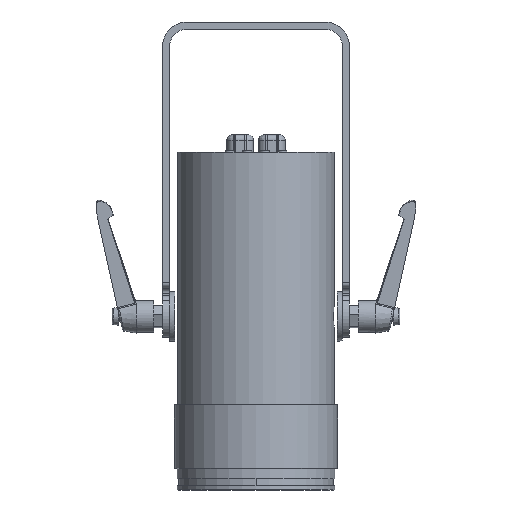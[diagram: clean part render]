
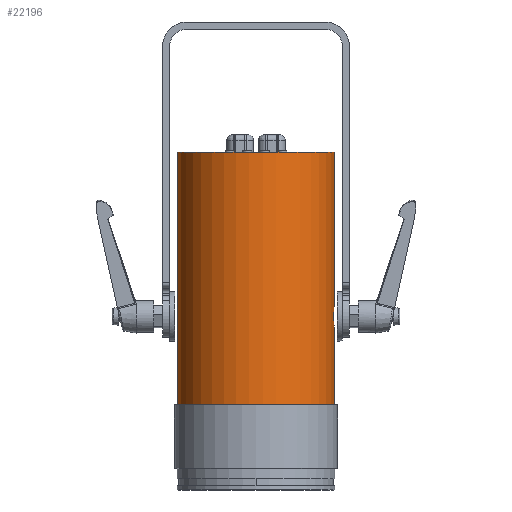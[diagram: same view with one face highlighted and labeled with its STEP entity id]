
A CAD part, front view. The second image highlights one B-rep face of the part: STEP entity #22196.
In plain terms, the highlighted cylindrical face has radius 44.75 mm (diameter 89.5 mm), a partial arc.
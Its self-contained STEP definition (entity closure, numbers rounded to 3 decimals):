
#343 = CARTESIAN_POINT ( 'NONE',  ( 44.355, -5.94, 43.913 ) ) ;
#594 = CARTESIAN_POINT ( 'NONE',  ( -44.382, -5.726, 0. ) ) ;
#1165 = ORIENTED_EDGE ( 'NONE', *, *, #11438, .F. ) ;
#1491 = DIRECTION ( 'NONE',  ( -0.992, -0.128, 0. ) ) ;
#2738 = CARTESIAN_POINT ( 'NONE',  ( 44.113, -7.525, 53.997 ) ) ;
#2841 = VECTOR ( 'NONE', #13676, 1000. ) ;
#2896 = CARTESIAN_POINT ( 'NONE',  ( 44.049, -7.888, 53.182 ) ) ;
#3203 = CARTESIAN_POINT ( 'NONE',  ( 44.382, -5.726, 56.282 ) ) ;
#3631 = VERTEX_POINT ( 'NONE', #12596 ) ;
#3732 = FACE_OUTER_BOUND ( 'NONE', #30717, .T. ) ;
#5290 = CARTESIAN_POINT ( 'NONE',  ( 44.049, -7.891, 46.825 ) ) ;
#5456 = CARTESIAN_POINT ( 'NONE',  ( 44.233, -6.786, 55.119 ) ) ;
#5618 = CARTESIAN_POINT ( 'NONE',  ( 44.253, -6.652, 55.292 ) ) ;
#5769 = CARTESIAN_POINT ( 'NONE',  ( 43.95, -8.423, 51.176 ) ) ;
#6598 = CARTESIAN_POINT ( 'NONE',  ( 0., 0., 0. ) ) ;
#7484 = B_SPLINE_CURVE_WITH_KNOTS ( 'NONE', 3,
 ( #12510, #343, #27593, #14912, #7700, #10261, #22616, #10416, #22290, #10744, #15550, #25027, #27269, #5290, #15067, #12830, #17975, #24864, #15395, #27119, #20198, #5769, #12980, #19888, #29522, #25183, #2896, #2738, #7541, #17330, #5456, #10101, #5618, #24702, #29995, #22771, #22460, #3203 ),
 .UNSPECIFIED., .F., .F.,
 ( 4, 2, 2, 2, 2, 2, 2, 2, 2, 2, 2, 2, 2, 2, 2, 2, 2, 2, 4 ),
 ( 0., 0.063, 0.094, 0.125, 0.188, 0.219, 0.25, 0.313, 0.375, 0.5, 0.562, 0.625, 0.687, 0.75, 0.875, 0.891, 0.906, 0.937, 1. ),
 .UNSPECIFIED. ) ;
#7541 = CARTESIAN_POINT ( 'NONE',  ( 44.164, -7.228, 54.512 ) ) ;
#7700 = CARTESIAN_POINT ( 'NONE',  ( 44.273, -6.518, 44.542 ) ) ;
#7786 = CARTESIAN_POINT ( 'NONE',  ( 44.382, -5.726, 56.282 ) ) ;
#7875 = DIRECTION ( 'NONE',  ( 0., 0., 1. ) ) ;
#8060 = CIRCLE ( 'NONE', #19337, 44.75 ) ;
#9708 = ORIENTED_EDGE ( 'NONE', *, *, #24126, .T. ) ;
#9876 = EDGE_CURVE ( 'NONE', #20485, #11787, #16606, .T. ) ;
#10101 = CARTESIAN_POINT ( 'NONE',  ( 44.246, -6.694, 55.239 ) ) ;
#10261 = CARTESIAN_POINT ( 'NONE',  ( 44.246, -6.696, 44.762 ) ) ;
#10416 = CARTESIAN_POINT ( 'NONE',  ( 44.191, -7.054, 45.249 ) ) ;
#10562 = CARTESIAN_POINT ( 'NONE',  ( 44.382, -5.726, 143. ) ) ;
#10744 = CARTESIAN_POINT ( 'NONE',  ( 44.127, -7.44, 45.886 ) ) ;
#11274 = CYLINDRICAL_SURFACE ( 'NONE', #20691, 44.75 ) ;
#11438 = EDGE_CURVE ( 'NONE', #22398, #11787, #8060, .T. ) ;
#11770 = VECTOR ( 'NONE', #20491, 1000. ) ;
#11787 = VERTEX_POINT ( 'NONE', #10562 ) ;
#12168 = CIRCLE ( 'NONE', #26506, 44.75 ) ;
#12510 = CARTESIAN_POINT ( 'NONE',  ( 44.382, -5.726, 43.718 ) ) ;
#12596 = CARTESIAN_POINT ( 'NONE',  ( 44.382, -5.726, 43.718 ) ) ;
#12830 = CARTESIAN_POINT ( 'NONE',  ( 43.996, -8.179, 47.666 ) ) ;
#12980 = CARTESIAN_POINT ( 'NONE',  ( 43.959, -8.377, 51.467 ) ) ;
#13676 = DIRECTION ( 'NONE',  ( 0., 0., -1. ) ) ;
#13963 = EDGE_CURVE ( 'NONE', #3631, #20485, #7484, .T. ) ;
#14738 = ORIENTED_EDGE ( 'NONE', *, *, #13963, .T. ) ;
#14912 = CARTESIAN_POINT ( 'NONE',  ( 44.286, -6.426, 44.434 ) ) ;
#15067 = CARTESIAN_POINT ( 'NONE',  ( 44.03, -7.997, 47.101 ) ) ;
#15395 = CARTESIAN_POINT ( 'NONE',  ( 43.935, -8.501, 49.416 ) ) ;
#15550 = CARTESIAN_POINT ( 'NONE',  ( 44.115, -7.511, 46.017 ) ) ;
#16606 = LINE ( 'NONE', #16768, #27477 ) ;
#16768 = CARTESIAN_POINT ( 'NONE',  ( 44.382, -5.726, 56.282 ) ) ;
#17239 = EDGE_CURVE ( 'NONE', #27840, #3631, #20644, .T. ) ;
#17330 = CARTESIAN_POINT ( 'NONE',  ( 44.226, -6.831, 55.059 ) ) ;
#17975 = CARTESIAN_POINT ( 'NONE',  ( 43.982, -8.256, 47.956 ) ) ;
#18503 = CARTESIAN_POINT ( 'NONE',  ( -44.382, -5.726, 143. ) ) ;
#19337 = AXIS2_PLACEMENT_3D ( 'NONE', #20386, #7875, #25050 ) ;
#19888 = CARTESIAN_POINT ( 'NONE',  ( 43.982, -8.253, 52.054 ) ) ;
#20198 = CARTESIAN_POINT ( 'NONE',  ( 43.938, -8.485, 50.591 ) ) ;
#20364 = ORIENTED_EDGE ( 'NONE', *, *, #31006, .T. ) ;
#20386 = CARTESIAN_POINT ( 'NONE',  ( 0., 0., 143. ) ) ;
#20485 = VERTEX_POINT ( 'NONE', #7786 ) ;
#20491 = DIRECTION ( 'NONE',  ( 0., 0., 1. ) ) ;
#20644 = LINE ( 'NONE', #20806, #11770 ) ;
#20691 = AXIS2_PLACEMENT_3D ( 'NONE', #28280, #25393, #28436 ) ;
#20806 = CARTESIAN_POINT ( 'NONE',  ( 44.382, -5.726, 0. ) ) ;
#21579 = DIRECTION ( 'NONE',  ( 0., 0., 1. ) ) ;
#21631 = CARTESIAN_POINT ( 'NONE',  ( 44.382, -5.726, 0. ) ) ;
#22145 = CARTESIAN_POINT ( 'NONE',  ( -44.382, -5.726, 143. ) ) ;
#22196 = ADVANCED_FACE ( 'NONE', ( #3732 ), #11274, .T. ) ;
#22290 = CARTESIAN_POINT ( 'NONE',  ( 44.164, -7.217, 45.499 ) ) ;
#22398 = VERTEX_POINT ( 'NONE', #22145 ) ;
#22460 = CARTESIAN_POINT ( 'NONE',  ( 44.355, -5.94, 56.087 ) ) ;
#22616 = CARTESIAN_POINT ( 'NONE',  ( 44.232, -6.79, 44.885 ) ) ;
#22771 = CARTESIAN_POINT ( 'NONE',  ( 44.327, -6.141, 55.884 ) ) ;
#23151 = LINE ( 'NONE', #18503, #2841 ) ;
#24126 = EDGE_CURVE ( 'NONE', #22398, #28420, #23151, .T. ) ;
#24702 = CARTESIAN_POINT ( 'NONE',  ( 44.273, -6.519, 55.458 ) ) ;
#24864 = CARTESIAN_POINT ( 'NONE',  ( 43.947, -8.44, 48.83 ) ) ;
#25027 = CARTESIAN_POINT ( 'NONE',  ( 44.092, -7.646, 46.283 ) ) ;
#25050 = DIRECTION ( 'NONE',  ( -0.992, -0.128, 0. ) ) ;
#25183 = CARTESIAN_POINT ( 'NONE',  ( 44.03, -7.994, 52.906 ) ) ;
#25393 = DIRECTION ( 'NONE',  ( 0., 0., 1. ) ) ;
#26501 = ORIENTED_EDGE ( 'NONE', *, *, #17239, .T. ) ;
#26506 = AXIS2_PLACEMENT_3D ( 'NONE', #6598, #30977, #1491 ) ;
#27073 = ORIENTED_EDGE ( 'NONE', *, *, #9876, .T. ) ;
#27119 = CARTESIAN_POINT ( 'NONE',  ( 43.935, -8.5, 50.297 ) ) ;
#27269 = CARTESIAN_POINT ( 'NONE',  ( 44.081, -7.711, 46.419 ) ) ;
#27477 = VECTOR ( 'NONE', #21579, 1000. ) ;
#27593 = CARTESIAN_POINT ( 'NONE',  ( 44.327, -6.142, 44.116 ) ) ;
#27840 = VERTEX_POINT ( 'NONE', #21631 ) ;
#28280 = CARTESIAN_POINT ( 'NONE',  ( 0., 0., 0. ) ) ;
#28420 = VERTEX_POINT ( 'NONE', #594 ) ;
#28436 = DIRECTION ( 'NONE',  ( 1., 0., 0. ) ) ;
#29522 = CARTESIAN_POINT ( 'NONE',  ( 43.997, -8.177, 52.342 ) ) ;
#29995 = CARTESIAN_POINT ( 'NONE',  ( 44.286, -6.426, 55.566 ) ) ;
#30717 = EDGE_LOOP ( 'NONE', ( #27073, #1165, #9708, #20364, #26501, #14738 ) ) ;
#30977 = DIRECTION ( 'NONE',  ( 0., 0., 1. ) ) ;
#31006 = EDGE_CURVE ( 'NONE', #28420, #27840, #12168, .T. ) ;
